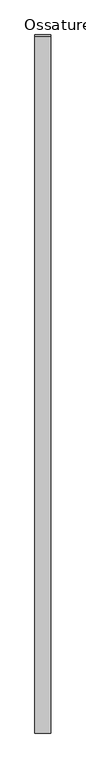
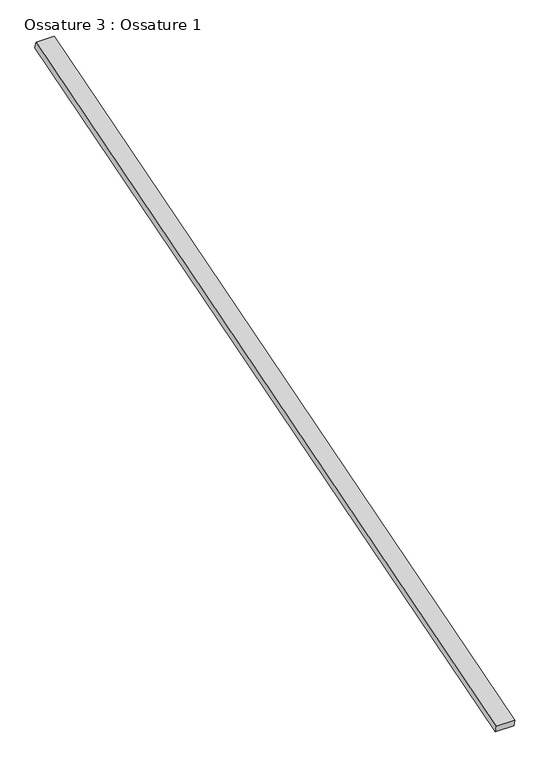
"""IFC4 building model written with IfcOpenShell, lengths in millimetres: beam geometry, Ossature 3 : Ossature 1."""

from ifc_helpers import new_model, si_unit, frame, origin, place, context, project, spatial, polyline, outline, extrude, source, transform, mapped, element, save


def ossature_3_ossature_1_b0ed6a20(model_context):
    return source(origin(), model_context, "Body", "SweptSolid", [
        extrude(outline(polyline([(0.0, 0.0), (0.0, -4543.0299679), (-100.0, -4543.0299679), (-100.0, 0.0), (0.0, 0.0)])), frame((1029.0466393, -833.3913565, 8153.6336115), z_axis=(0.0, -0.28734788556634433, 0.9578262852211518), x_axis=(-1.0, 0.0, 0.0)), (0.0, 0.0, 1.0), 40.0),
    ])


if __name__ == "__main__":
    model = new_model("IFC4")
    model_context = context("Model", 3, world=origin())
    ifc_project = project(units=[si_unit("LENGTHUNIT", "METRE", prefix="MILLI")], contexts=[model_context])
    site = spatial("IfcSite", under=ifc_project)
    building = spatial("IfcBuilding", under=site)
    placement = place(None, origin())
    ossature_3_ossature_1_shape = ossature_3_ossature_1_b0ed6a20(model_context)
    element("IfcBeam", 1, ObjectType="Ossature 3 : Ossature 1", at=placement, inside=building, context=model_context, shape_type="MappedRepresentation", body=[
        mapped(ossature_3_ossature_1_shape, transform((0.0, 0.0, 0.0), x_axis=(1.0, 0.0, 0.0), y_axis=(0.0, 1.0, 0.0), z_axis=(0.0, 0.0, 1.0))),
    ])
    save(model, "model.ifc")
